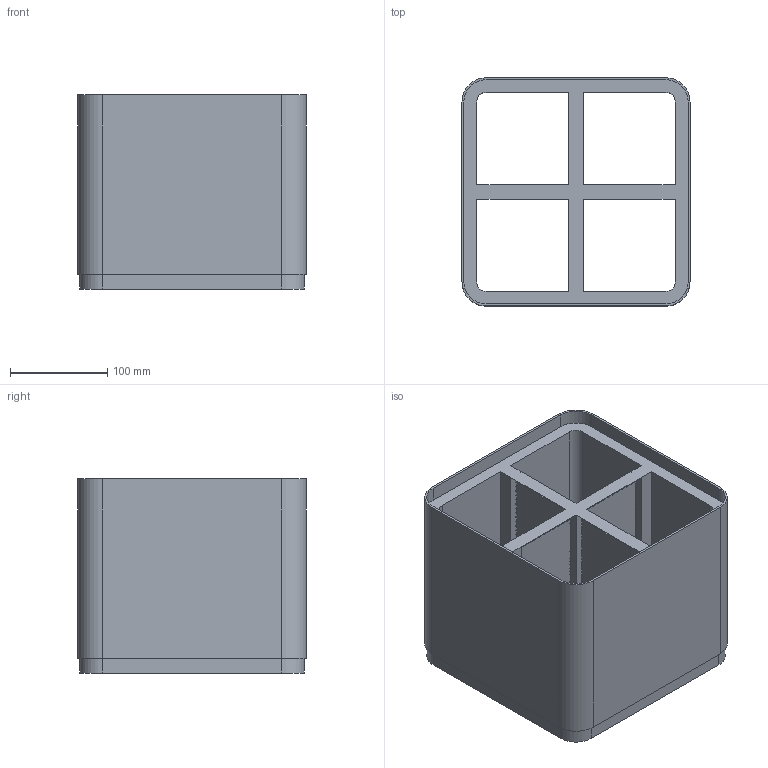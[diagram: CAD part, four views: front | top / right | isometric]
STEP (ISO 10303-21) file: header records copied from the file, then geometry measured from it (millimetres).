
FILE_DESCRIPTION(/* description */ ('STEP AP242 Edition 2','CAx-IF Rec.Pracs.---Representation and Presentation of Product Manufacturing Information (PMI)---4.0---2014-10-13','CAx-IF Rec.Pracs.---3D Tessellated Geometry---0.4---2014-09-14','2;1','CAx-IF Rec.Pracs.---User Defined Attributes---1.5---2016-08-15'),/* implementation_level */ '2;1');
FILE_NAME(/* name */ '693e41fdc77b20792755f262',/* time_stamp */ '2025-12-14T04:50:07Z',/* author */ (''),/* organization */ (''),/* preprocessor_version */ 'ST-DEVELOPER v20',/* originating_system */ 'ONSHAPE BY PTC INC, 1.208',/* authorisation */ ' ');
FILE_SCHEMA (('AP242_MANAGED_MODEL_BASED_3D_ENGINEERING_MIM_LF { 1 0 10303 442 3 1 4 }'));
Products named in the file (6): Thin Support breakaway; Mid extension breakaway support; Mid section
Bounding box: 235 x 235 x 200 mm (x, y, z)
Volume: 5308009.4 mm3; surface area: 1064300.2 mm2
Topology: 6 solids, 6 shells, 2760 faces, 9384 edges, 6160 vertices
Faces by surface type: plane 2728, cylinder 32
Entity records: 100833 total; most frequent: ORIENTED_EDGE 18768, CARTESIAN_POINT 18310, DIRECTION 14980, EDGE_CURVE 9384, LINE 9320, VECTOR 9320, VERTEX_POINT 6160, EDGE_LOOP 3012
